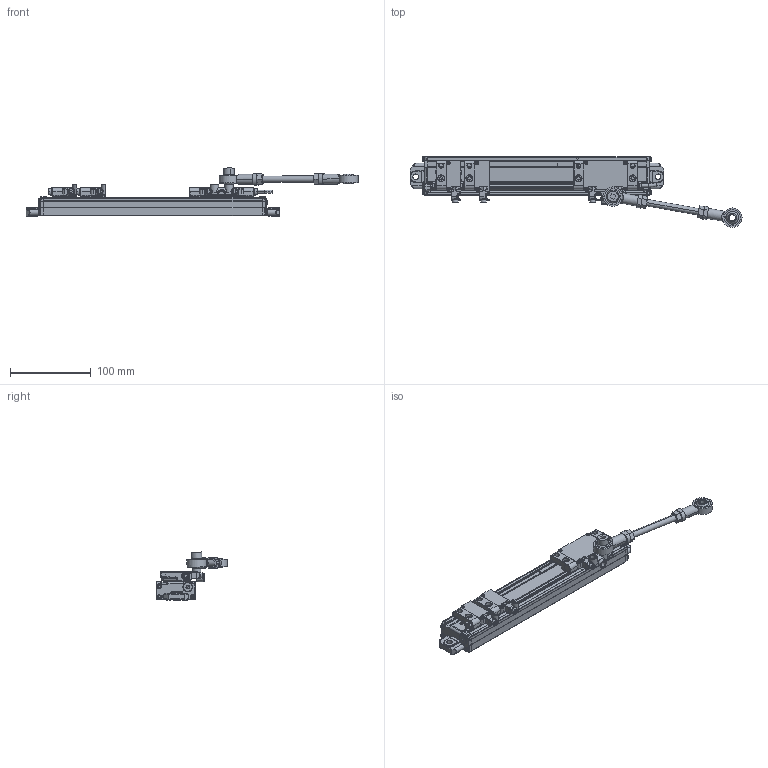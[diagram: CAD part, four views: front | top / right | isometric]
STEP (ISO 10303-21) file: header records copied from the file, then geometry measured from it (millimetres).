
FILE_DESCRIPTION(('Creo Elements/Direct Modeling STEP Export'),'2;1');
FILE_NAME('SERIE_PB-170.stp','2021-01-08T10:03:13',(''),(''),'Creo Elements/Direct Modeling STEP processor for AP214 (Solid Model)','Creo Elements/Direct Modeling 19.0G 27-Nov-2017 (C) Parametric Technology GmbH','');
FILE_SCHEMA(('AUTOMOTIVE_DESIGN { 1 0 10303 214 1 1 1 1 }'));
Length unit declared in the file: millimetre
Products named in the file (15): IO; SCALE_BODY_170; SCALE_BLOCK_1; SCALE_BLOCK_2; SCALE_PB_170; READING_HEAD_BODY; BLOCK; COUPLING_BAR; COUPLING_BAR_BLOCK; READING_HEAD; READING_HEAD_BODY.1.1; BLOCK.1; COUPLING_BAR_BLOCK.1; READING_HEAD.1; PB_170
Assembly tree (16 placements, depth 4):
  PB_170
    READING_HEAD.1
      COUPLING_BAR_BLOCK.1  x2
        BLOCK.1
      READING_HEAD_BODY.1.1  x2
    READING_HEAD
      COUPLING_BAR_BLOCK
        COUPLING_BAR
        BLOCK
      READING_HEAD_BODY
    SCALE_PB_170
      SCALE_BLOCK_2
      SCALE_BLOCK_1
      SCALE_BODY_170
      IO
Bounding box: 410.72 x 87.83 x 59.41 mm (x, y, z)
Volume: 366571 mm3; surface area: 93717.5 mm2
Topology: 13 solids, 17 shells, 2778 faces, 7173 edges, 4419 vertices
Faces by surface type: plane 1149, cylinder 1013, bspline 318, torus 104, cone 100, sphere 85, extrusion 9
Entity records: 111595 total; most frequent: CARTESIAN_POINT 52811, ORIENTED_EDGE 12110, DIRECTION 10166, EDGE_CURVE 6047, VERTEX_POINT 3798, VECTOR 3396, LINE 3387, AXIS2_PLACEMENT_3D 3385
